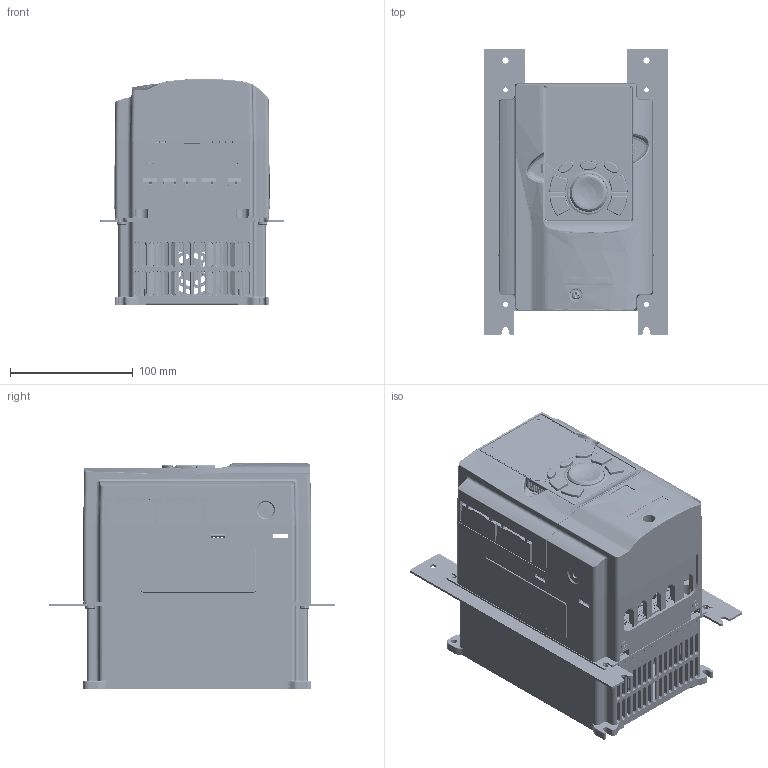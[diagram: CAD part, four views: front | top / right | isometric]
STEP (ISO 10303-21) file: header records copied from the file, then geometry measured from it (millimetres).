
FILE_DESCRIPTION((''),'2;1');
FILE_NAME('ST600-2R2G3_ASM','2019-07-04T',('Administrator'),(''),'PRO/ENGINEER BY PARAMETRIC TECHNOLOGY CORPORATION, 2010100','PRO/ENGINEER BY PARAMETRIC TECHNOLOGY CORPORATION, 2010100','');
FILE_SCHEMA(('CONFIG_CONTROL_DESIGN'));
Products named in the file (55): 80740120; 80740045; 80880095; 80740044; 80740181; 80740182; 80880486; 80740180; 80810118; 80810117; 80810117SY; 80310229; 70610028; 80740163; 80740162; 80880456; 80880456SY; 40810091_ASM; 80740164; 80740164SY; 36002-00065; 39009-00082; 17003-02723_20180403; E-MJ0204-100T; 17003-02723_20180403_ASM; KEY-LCD01-ZY-600-ES_ASM; KEY-LCD01-ZY-600_ASM; PA1704; E-DIN0309-5_08MM-TA; E-DIN0302-5_08MM-TA; E-USB04-TFA; PA1704_ASM; BODY; TERMINAL-1; TERMINAL-2; TB1000-00_SCREW_8; TB1000-00_WADIAN_6; TB1000-00_ASMSCREW_ASM_6_ASM; SCREW_ASM; CHE200_1G5_TERMINAL_ASM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
Assembly tree (82 placements, depth 6):
  ST600-2R2G3_ASM
    80740120
    80740045
    80880095
    80740044
    80740181
    80740182
    80880486
    80740180
    80810118
    80810117
    80810117SY
    80310229
    70610028
    KEY-LCD01-ZY-600_ASM
      80740163
      40810091_ASM
        80740162
        80880456
        80880456SY
      80740164
      80740164SY
      KEY-LCD01-ZY-600-ES_ASM
        36002-00065
        39009-00082
        17003-02723_20180403_ASM
          17003-02723_20180403
          E-MJ0204-100T
    ST600-2R2G3-ES_ASM
      PA1704_ASM
        PA1704
        E-DIN0309-5_08MM-TA
        E-DIN0302-5_08MM-TA
        E-MJ0204-100T
        E-USB04-TFA
      CHE200_1G5_TERMINAL_ASM
        BODY
        TERMINAL-1  x5
        TERMINAL-2  x4
        SCREW_ASM  x9
          TB1000-00_ASMSCREW_ASM_6_ASM
            TB1000-00_SCREW_8
            TB1000-00_WADIAN_6
      ZQ-PCB-LD
      80740019  x2
      40800083_ASM
        80380478_ASM
          80380478
          S-M4-ZC  x2
        80380477_ASM
          80380477
          S-M4-ZC  x2
    ST600-2R2G3-FS_ASM
      GB9074_4_M4X10  x5
      GB9074_4_M4X12  x3
      GB9074_4_M4X16  x3
      PM_M4X10_DCR
Bounding box: 150.2 x 233.9 x 184.43 mm (x, y, z)
Volume: 1040502.4 mm3; surface area: 1044301.9 mm2
Topology: 74 solids, 74 shells, 18249 faces, 50378 edges, 32580 vertices
Faces by surface type: plane 9506, cylinder 6160, extrusion 719, torus 690, cone 567, bspline 511, sphere 96
Entity records: 561793 total; most frequent: CARTESIAN_POINT 136204, ORIENTED_EDGE 89642, DIRECTION 85799, EDGE_CURVE 44821, VECTOR 29497, VERTEX_POINT 29102, LINE 28778, AXIS2_PLACEMENT_3D 28151
